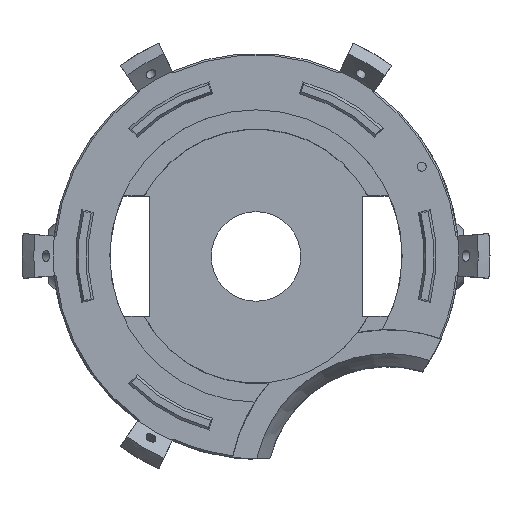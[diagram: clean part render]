
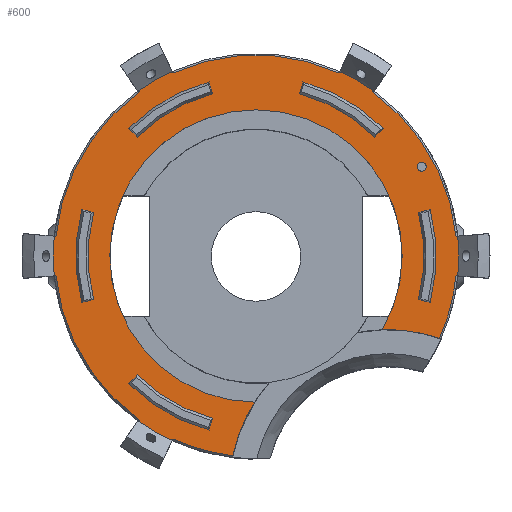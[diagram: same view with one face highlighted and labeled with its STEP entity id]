
A CAD part, top view. The second image highlights one B-rep face of the part: STEP entity #600.
In plain terms, the highlighted planar face has unit normal (0, 0, 1).
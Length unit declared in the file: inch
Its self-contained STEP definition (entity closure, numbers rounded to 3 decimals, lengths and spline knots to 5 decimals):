
#135=PLANE('',#2829);
#267=FACE_BOUND('',#914,.T.);
#268=FACE_BOUND('',#915,.T.);
#394=LINE('',#4114,#504);
#395=LINE('',#4121,#505);
#396=LINE('',#4130,#506);
#397=LINE('',#4137,#507);
#398=LINE('',#4138,#508);
#399=LINE('',#4145,#509);
#400=LINE('',#4146,#510);
#401=LINE('',#4153,#511);
#402=LINE('',#4154,#512);
#403=LINE('',#4161,#513);
#504=VECTOR('',#3102,1.);
#505=VECTOR('',#3103,1.);
#506=VECTOR('',#3112,1.);
#507=VECTOR('',#3113,1.);
#508=VECTOR('',#3114,1.);
#509=VECTOR('',#3115,1.);
#510=VECTOR('',#3116,1.);
#511=VECTOR('',#3117,1.);
#512=VECTOR('',#3118,1.);
#513=VECTOR('',#3119,1.);
#600=ADVANCED_FACE('',(#267,#268),#135,.T.);
#914=EDGE_LOOP('',(#1323,#1324,#1325,#1326,#1327,#1328,#1329,#1330,#1331,
#1332,#1333,#1334,#1335,#1336,#1337,#1338,#1339,#1340,#1341,#1342,#1343,
#1344,#1345,#1346));
#915=EDGE_LOOP('',(#1347));
#1125=CIRCLE('',#2772,2.47953);
#1126=CIRCLE('',#2774,2.47953);
#1128=CIRCLE('',#2777,2.47953);
#1130=CIRCLE('',#2780,2.47953);
#1132=CIRCLE('',#2783,2.47953);
#1161=CIRCLE('',#2824,1.94794);
#1162=CIRCLE('',#2825,1.8028);
#1163=CIRCLE('',#2826,1.94794);
#1164=CIRCLE('',#2827,2.47953);
#1165=CIRCLE('',#2828,0.05624);
#1323=ORIENTED_EDGE('',*,*,#2213,.F.);
#1324=ORIENTED_EDGE('',*,*,#2318,.T.);
#1325=ORIENTED_EDGE('',*,*,#2319,.F.);
#1326=ORIENTED_EDGE('',*,*,#2320,.F.);
#1327=ORIENTED_EDGE('',*,*,#2210,.F.);
#1328=ORIENTED_EDGE('',*,*,#2321,.F.);
#1329=ORIENTED_EDGE('',*,*,#2322,.T.);
#1330=ORIENTED_EDGE('',*,*,#2323,.F.);
#1331=ORIENTED_EDGE('',*,*,#2324,.F.);
#1332=ORIENTED_EDGE('',*,*,#2325,.T.);
#1333=ORIENTED_EDGE('',*,*,#2326,.F.);
#1334=ORIENTED_EDGE('',*,*,#2327,.F.);
#1335=ORIENTED_EDGE('',*,*,#2231,.F.);
#1336=ORIENTED_EDGE('',*,*,#2328,.T.);
#1337=ORIENTED_EDGE('',*,*,#2329,.F.);
#1338=ORIENTED_EDGE('',*,*,#2330,.F.);
#1339=ORIENTED_EDGE('',*,*,#2225,.F.);
#1340=ORIENTED_EDGE('',*,*,#2331,.T.);
#1341=ORIENTED_EDGE('',*,*,#2332,.F.);
#1342=ORIENTED_EDGE('',*,*,#2333,.F.);
#1343=ORIENTED_EDGE('',*,*,#2219,.F.);
#1344=ORIENTED_EDGE('',*,*,#2334,.T.);
#1345=ORIENTED_EDGE('',*,*,#2335,.F.);
#1346=ORIENTED_EDGE('',*,*,#2336,.F.);
#1347=ORIENTED_EDGE('',*,*,#2337,.F.);
#1951=VERTEX_POINT('',#3489);
#1952=VERTEX_POINT('',#3491);
#1954=VERTEX_POINT('',#3502);
#1955=VERTEX_POINT('',#3504);
#1960=VERTEX_POINT('',#3527);
#1961=VERTEX_POINT('',#3529);
#1966=VERTEX_POINT('',#3552);
#1967=VERTEX_POINT('',#3554);
#1972=VERTEX_POINT('',#3577);
#1973=VERTEX_POINT('',#3579);
#2047=VERTEX_POINT('',#4115);
#2048=VERTEX_POINT('',#4120);
#2049=VERTEX_POINT('',#4123);
#2050=VERTEX_POINT('',#4125);
#2051=VERTEX_POINT('',#4127);
#2052=VERTEX_POINT('',#4129);
#2053=VERTEX_POINT('',#4131);
#2054=VERTEX_POINT('',#4136);
#2055=VERTEX_POINT('',#4139);
#2056=VERTEX_POINT('',#4144);
#2057=VERTEX_POINT('',#4147);
#2058=VERTEX_POINT('',#4152);
#2059=VERTEX_POINT('',#4155);
#2060=VERTEX_POINT('',#4160);
#2061=VERTEX_POINT('',#4163);
#2210=EDGE_CURVE('',#1951,#1952,#1125,.T.);
#2213=EDGE_CURVE('',#1954,#1955,#1126,.T.);
#2219=EDGE_CURVE('',#1960,#1961,#1128,.T.);
#2225=EDGE_CURVE('',#1966,#1967,#1130,.T.);
#2231=EDGE_CURVE('',#1972,#1973,#1132,.T.);
#2318=EDGE_CURVE('',#1954,#2047,#394,.T.);
#2319=EDGE_CURVE('',#2048,#2047,#2626,.T.);
#2320=EDGE_CURVE('',#1952,#2048,#395,.T.);
#2321=EDGE_CURVE('',#2049,#1951,#1161,.T.);
#2322=EDGE_CURVE('',#2049,#2050,#1162,.T.);
#2323=EDGE_CURVE('',#2051,#2050,#1163,.T.);
#2324=EDGE_CURVE('',#2052,#2051,#1164,.T.);
#2325=EDGE_CURVE('',#2052,#2053,#396,.T.);
#2326=EDGE_CURVE('',#2054,#2053,#2627,.T.);
#2327=EDGE_CURVE('',#1973,#2054,#397,.T.);
#2328=EDGE_CURVE('',#1972,#2055,#398,.T.);
#2329=EDGE_CURVE('',#2056,#2055,#2628,.T.);
#2330=EDGE_CURVE('',#1967,#2056,#399,.T.);
#2331=EDGE_CURVE('',#1966,#2057,#400,.T.);
#2332=EDGE_CURVE('',#2058,#2057,#2629,.T.);
#2333=EDGE_CURVE('',#1961,#2058,#401,.T.);
#2334=EDGE_CURVE('',#1960,#2059,#402,.T.);
#2335=EDGE_CURVE('',#2060,#2059,#2630,.T.);
#2336=EDGE_CURVE('',#1955,#2060,#403,.T.);
#2337=EDGE_CURVE('',#2061,#2061,#1165,.T.);
#2626=B_SPLINE_CURVE_WITH_KNOTS('',3,(#4116,#4117,#4118,#4119),
 .UNSPECIFIED.,.F.,.F.,(4,4),(0.,1.),.UNSPECIFIED.);
#2627=B_SPLINE_CURVE_WITH_KNOTS('',3,(#4132,#4133,#4134,#4135),
 .UNSPECIFIED.,.F.,.F.,(4,4),(0.,1.),.UNSPECIFIED.);
#2628=B_SPLINE_CURVE_WITH_KNOTS('',3,(#4140,#4141,#4142,#4143),
 .UNSPECIFIED.,.F.,.F.,(4,4),(0.,1.),.UNSPECIFIED.);
#2629=B_SPLINE_CURVE_WITH_KNOTS('',3,(#4148,#4149,#4150,#4151),
 .UNSPECIFIED.,.F.,.F.,(4,4),(0.,1.),.UNSPECIFIED.);
#2630=B_SPLINE_CURVE_WITH_KNOTS('',3,(#4156,#4157,#4158,#4159),
 .UNSPECIFIED.,.F.,.F.,(4,4),(0.,1.),.UNSPECIFIED.);
#2772=AXIS2_PLACEMENT_3D('',#3490,#2971,#2972);
#2774=AXIS2_PLACEMENT_3D('',#3503,#2975,#2976);
#2777=AXIS2_PLACEMENT_3D('',#3528,#2981,#2982);
#2780=AXIS2_PLACEMENT_3D('',#3553,#2987,#2988);
#2783=AXIS2_PLACEMENT_3D('',#3578,#2993,#2994);
#2824=AXIS2_PLACEMENT_3D('',#4122,#3104,#3105);
#2825=AXIS2_PLACEMENT_3D('',#4124,#3106,#3107);
#2826=AXIS2_PLACEMENT_3D('',#4126,#3108,#3109);
#2827=AXIS2_PLACEMENT_3D('',#4128,#3110,#3111);
#2828=AXIS2_PLACEMENT_3D('',#4162,#3120,#3121);
#2829=AXIS2_PLACEMENT_3D('',#4164,#3122,#3123);
#2971=DIRECTION('',(0.,0.,-1.));
#2972=DIRECTION('',(-1.,0.,0.));
#2975=DIRECTION('',(0.,0.,-1.));
#2976=DIRECTION('',(-1.,0.,0.));
#2981=DIRECTION('',(0.,0.,-1.));
#2982=DIRECTION('',(-1.,0.,0.));
#2987=DIRECTION('',(0.,0.,-1.));
#2988=DIRECTION('',(-1.,0.,0.));
#2993=DIRECTION('',(0.,0.,-1.));
#2994=DIRECTION('',(-1.,0.,0.));
#3102=DIRECTION('',(0.171,-0.985,0.));
#3103=DIRECTION('',(-0.939,-0.345,0.));
#3104=DIRECTION('',(0.,0.,1.));
#3105=DIRECTION('',(1.,0.,0.));
#3106=DIRECTION('',(0.,0.,-1.));
#3107=DIRECTION('',(-1.,0.,0.));
#3108=DIRECTION('',(0.,0.,1.));
#3109=DIRECTION('',(1.,0.,0.));
#3110=DIRECTION('',(0.,0.,-1.));
#3111=DIRECTION('',(-1.,0.,0.));
#3112=DIRECTION('',(0.768,0.64,0.));
#3113=DIRECTION('',(0.768,-0.64,0.));
#3114=DIRECTION('',(-0.171,0.985,0.));
#3115=DIRECTION('',(0.939,0.345,0.));
#3116=DIRECTION('',(-0.939,0.345,0.));
#3117=DIRECTION('',(0.171,0.985,0.));
#3118=DIRECTION('',(-0.768,-0.64,0.));
#3119=DIRECTION('',(-0.768,0.64,0.));
#3120=DIRECTION('',(0.,0.,1.));
#3121=DIRECTION('',(1.,0.,0.));
#3122=DIRECTION('',(0.,0.,1.));
#3123=DIRECTION('',(1.,0.,0.));
#3489=CARTESIAN_POINT('',(-0.28581,-2.463,3.88524));
#3490=CARTESIAN_POINT('',(0.,0.,3.88524));
#3491=CARTESIAN_POINT('',(-1.02337,-2.25849,3.88524));
#3502=CARTESIAN_POINT('',(-1.44423,-2.01551,3.88524));
#3503=CARTESIAN_POINT('',(0.,0.,3.88524));
#3504=CARTESIAN_POINT('',(-2.4676,-0.24299,3.88524));
#3527=CARTESIAN_POINT('',(-2.4676,0.24299,3.88524));
#3528=CARTESIAN_POINT('',(0.,0.,3.88524));
#3529=CARTESIAN_POINT('',(-1.44423,2.01551,3.88524));
#3552=CARTESIAN_POINT('',(-1.02337,2.25849,3.88524));
#3553=CARTESIAN_POINT('',(0.,0.,3.88524));
#3554=CARTESIAN_POINT('',(1.02337,2.25849,3.88524));
#3577=CARTESIAN_POINT('',(1.44423,2.01551,3.88524));
#3578=CARTESIAN_POINT('',(0.,0.,3.88524));
#3579=CARTESIAN_POINT('',(2.4676,0.24299,3.88524));
#4114=CARTESIAN_POINT('',(-1.44182,-2.02963,3.88524));
#4115=CARTESIAN_POINT('',(-1.43937,-2.04377,3.88524));
#4116=CARTESIAN_POINT('',(-1.05027,-2.26842,3.88524));
#4117=CARTESIAN_POINT('',(-1.18651,-2.2057,3.88524));
#4118=CARTESIAN_POINT('',(-1.31694,-2.1304,3.88524));
#4119=CARTESIAN_POINT('',(-1.43937,-2.04377,3.88524));
#4120=CARTESIAN_POINT('',(-1.05027,-2.26842,3.88524));
#4121=CARTESIAN_POINT('',(-1.0368,-2.26347,3.88524));
#4122=CARTESIAN_POINT('',(1.62233,-2.85479,3.88524));
#4123=CARTESIAN_POINT('',(-0.01706,-1.80271,3.88524));
#4124=CARTESIAN_POINT('',(0.,0.,3.88524));
#4125=CARTESIAN_POINT('',(1.55748,-0.90793,3.88524));
#4126=CARTESIAN_POINT('',(1.62233,-2.85479,3.88524));
#4127=CARTESIAN_POINT('',(2.26227,-1.01497,3.88524));
#4128=CARTESIAN_POINT('',(0.,0.,3.88524));
#4129=CARTESIAN_POINT('',(2.4676,-0.24299,3.88524));
#4130=CARTESIAN_POINT('',(2.47862,-0.23384,3.88524));
#4131=CARTESIAN_POINT('',(2.48965,-0.22465,3.88524));
#4132=CARTESIAN_POINT('',(2.48965,0.22465,3.88524));
#4133=CARTESIAN_POINT('',(2.50345,0.07531,3.88524));
#4134=CARTESIAN_POINT('',(2.50345,-0.07531,3.88524));
#4135=CARTESIAN_POINT('',(2.48965,-0.22465,3.88524));
#4136=CARTESIAN_POINT('',(2.48965,0.22465,3.88524));
#4137=CARTESIAN_POINT('',(2.47862,0.23384,3.88524));
#4138=CARTESIAN_POINT('',(1.44182,2.02963,3.88524));
#4139=CARTESIAN_POINT('',(1.43937,2.04377,3.88524));
#4140=CARTESIAN_POINT('',(1.05027,2.26842,3.88524));
#4141=CARTESIAN_POINT('',(1.18651,2.2057,3.88524));
#4142=CARTESIAN_POINT('',(1.31694,2.1304,3.88524));
#4143=CARTESIAN_POINT('',(1.43937,2.04377,3.88524));
#4144=CARTESIAN_POINT('',(1.05027,2.26842,3.88524));
#4145=CARTESIAN_POINT('',(1.0368,2.26347,3.88524));
#4146=CARTESIAN_POINT('',(-1.0368,2.26347,3.88524));
#4147=CARTESIAN_POINT('',(-1.05027,2.26842,3.88524));
#4148=CARTESIAN_POINT('',(-1.43937,2.04377,3.88524));
#4149=CARTESIAN_POINT('',(-1.31694,2.1304,3.88524));
#4150=CARTESIAN_POINT('',(-1.18651,2.2057,3.88524));
#4151=CARTESIAN_POINT('',(-1.05027,2.26842,3.88524));
#4152=CARTESIAN_POINT('',(-1.43937,2.04377,3.88524));
#4153=CARTESIAN_POINT('',(-1.44182,2.02963,3.88524));
#4154=CARTESIAN_POINT('',(-2.47862,0.23384,3.88524));
#4155=CARTESIAN_POINT('',(-2.48965,0.22465,3.88524));
#4156=CARTESIAN_POINT('',(-2.48965,-0.22465,3.88524));
#4157=CARTESIAN_POINT('',(-2.50345,-0.07531,3.88524));
#4158=CARTESIAN_POINT('',(-2.50345,0.07531,3.88524));
#4159=CARTESIAN_POINT('',(-2.48965,0.22465,3.88524));
#4160=CARTESIAN_POINT('',(-2.48965,-0.22465,3.88524));
#4161=CARTESIAN_POINT('',(-2.47862,-0.23384,3.88524));
#4162=CARTESIAN_POINT('',(2.04346,1.10169,3.88524));
#4163=CARTESIAN_POINT('',(2.0997,1.10169,3.88524));
#4164=CARTESIAN_POINT('',(0.,2.47953,3.88524));
